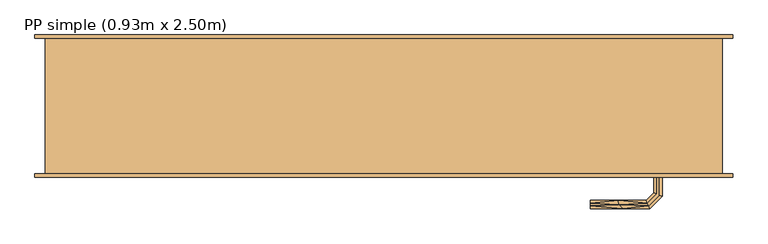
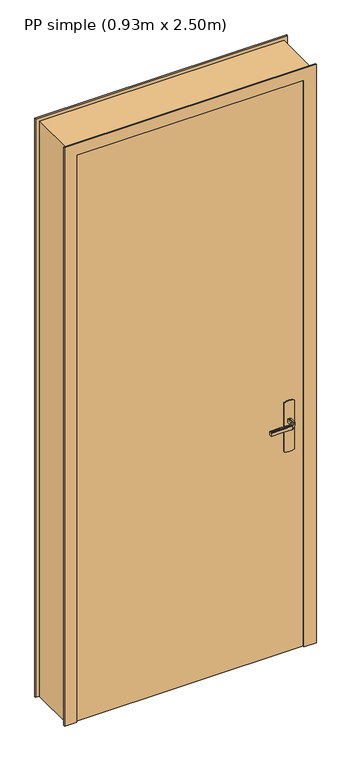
"""IFC4 building model written with IfcOpenShell, lengths in millimetres: door geometry, PP simple (0.93m x 2.50m)."""

import ifcopenshell
import ifcopenshell.guid

model = None  # the IFC model being written
_history = None  # IfcOwnerHistory: only IFC2X3 demands one
_inside = {}  # id of a spatial element -> (the spatial element, [elements in it])
_under = {}  # id of a project, library or spatial element -> (it, [spatial elements below it])
_declared = {}  # id of a project -> (the project, [libraries it declares])
_typed = {}  # id of a type object -> (the type object, [elements of that type])
_made_of = {}  # id of a material, layer set ... -> (it, [elements and type objects made of it])


def new_model(schema):
    """Start an empty IFC model of exactly this schema.

    Asked for "IFC4X3", IfcOpenShell would pick the latest addendum, in which some entities
    have other attributes; the version numbers below select the first issue.
    IFC2X3 requires an IfcOwnerHistory on every rooted entity: one is made here for all.
    """
    global model, _history
    if schema == "IFC4X3":
        model = ifcopenshell.file(schema_version=(4, 3, 0, 0))
    else:
        model = ifcopenshell.file(schema=schema)
    _inside.clear()
    _under.clear()
    _declared.clear()
    _typed.clear()
    _made_of.clear()
    _history = None
    if model.schema == "IFC2X3":
        org = make("IfcOrganization", Name="unknown")
        user = make(
            "IfcPersonAndOrganization",
            ThePerson=make("IfcPerson", FamilyName="unknown"),
            TheOrganization=org,
        )
        app = make(
            "IfcApplication",
            ApplicationDeveloper=org,
            Version="unknown",
            ApplicationFullName="unknown",
            ApplicationIdentifier="unknown",
        )
        _history = make(
            "IfcOwnerHistory",
            OwningUser=user,
            OwningApplication=app,
            ChangeAction="ADDED",
            CreationDate=0,
        )
    return model


def make(cls, **values):
    """One entity of the class cls with the attributes given. An attribute that is None is left unset."""
    return model.create_entity(
        cls, **{name: value for name, value in values.items() if value is not None}
    )


def rooted(cls, **values):
    """An entity with a GlobalId (a new one), such as an element, a storey or a relation."""
    return make(cls, GlobalId=ifcopenshell.guid.new(), OwnerHistory=_history, **values)


def si_unit(unit_type, name, prefix=None):
    """IfcSIUnit, for example si_unit("LENGTHUNIT", "METRE", prefix="MILLI")."""
    return make("IfcSIUnit", UnitType=unit_type, Prefix=prefix, Name=name)


def assignment(units):
    """IfcUnitAssignment: the units of a project."""
    return None if units is None else make("IfcUnitAssignment", Units=units)


def point(xyz):
    """IfcCartesianPoint."""
    return None if xyz is None else make("IfcCartesianPoint", Coordinates=xyz)


def direction(xyz):
    """IfcDirection."""
    return None if xyz is None else make("IfcDirection", DirectionRatios=xyz)


def frame(location, z_axis=None, x_axis=None):
    """IfcAxis2Placement3D, a coordinate frame: its origin and axes. An axis left out is left unset."""
    return make(
        "IfcAxis2Placement3D",
        Location=point(location),
        Axis=direction(z_axis),
        RefDirection=direction(x_axis),
    )


def origin():
    """The frame at (0, 0, 0) with its axes left unset."""
    return frame((0.0, 0.0, 0.0))


def origin_with_axes():
    """The frame at (0, 0, 0) with the z axis (0, 0, 1) and the x axis (1, 0, 0) written out."""
    return frame((0.0, 0.0, 0.0), z_axis=(0.0, 0.0, 1.0), x_axis=(1.0, 0.0, 0.0))


def place(relative_to, where):
    """IfcLocalPlacement: puts the frame where relative to a parent placement (None: the world)."""
    return make(
        "IfcLocalPlacement", PlacementRelTo=relative_to, RelativePlacement=where
    )


def context(
    kind, dimensions, precision=None, world=None, true_north=None, identifier=None
):
    """IfcGeometricRepresentationContext, for example the 3D "Model" context."""
    return make(
        "IfcGeometricRepresentationContext",
        ContextIdentifier=identifier,
        ContextType=kind,
        CoordinateSpaceDimension=dimensions,
        Precision=precision,
        WorldCoordinateSystem=world,
        TrueNorth=true_north,
    )


def project(units=None, contexts=None):
    """IfcProject with its units and contexts."""
    return rooted(
        "IfcProject",
        Name="project",
        RepresentationContexts=contexts,
        UnitsInContext=assignment(units),
    )


def spatial(cls, under=None, at=None, **own):
    """A site, building, storey or space (cls), placed at a placement, below another one or the project."""
    s = rooted(cls, ObjectPlacement=at, **own)
    if under is not None:
        _under.setdefault(under.id(), (under, []))[1].append(s)
    return s


def polyline(points):
    """IfcPolyline through the points."""
    return make("IfcPolyline", Points=[point(p) for p in points])


def outline(outer, holes=None, kind="AREA"):
    """IfcArbitraryClosedProfileDef: a profile drawn as a closed curve; with holes, ...WithVoids."""
    if holes is None:
        return make("IfcArbitraryClosedProfileDef", ProfileType=kind, OuterCurve=outer)
    return make(
        "IfcArbitraryProfileDefWithVoids",
        ProfileType=kind,
        OuterCurve=outer,
        InnerCurves=holes,
    )


def extrude(swept, where, along, depth):
    """IfcExtrudedAreaSolid: the profile swept, set in the frame where, extruded along a direction by depth."""
    return make(
        "IfcExtrudedAreaSolid",
        SweptArea=swept,
        Position=where,
        ExtrudedDirection=direction(along),
        Depth=depth,
    )


def faces_of(points, faces, orient=None, outer=None):
    """IfcFace entities. A face is a list of loops; a loop is a list of indices into points, from 0.

    orient and outer hold one flag for each loop. By default every Orientation is true, the
    first loop of a face is its IfcFaceOuterBound and the others are IfcFaceBound.
    """
    made = []
    for i, loops in enumerate(faces):
        bounds = []
        for j, loop in enumerate(loops):
            is_outer = j == 0 if outer is None else outer[i][j]
            bounds.append(
                make(
                    "IfcFaceOuterBound" if is_outer else "IfcFaceBound",
                    Bound=make("IfcPolyLoop", Polygon=[points[k] for k in loop]),
                    Orientation=True if orient is None else orient[i][j],
                )
            )
        made.append(make("IfcFace", Bounds=bounds))
    return made


def faceted_brep(points, faces, orient=None, outer=None, voids=None):
    """IfcFacetedBrep: a solid bounded by flat faces; with voids (closed shells), ...WithVoids."""
    shared = [point(p) for p in points]
    hull = make("IfcClosedShell", CfsFaces=faces_of(shared, faces, orient, outer))
    if voids is None:
        return make("IfcFacetedBrep", Outer=hull)
    return make(
        "IfcFacetedBrepWithVoids",
        Outer=hull,
        Voids=[
            make(cls, CfsFaces=faces_of(shared, fs, o, b)) for cls, fs, o, b in voids
        ],
    )


def shape(context_of_items, identifier, shape_type, items):
    """IfcShapeRepresentation: the items that make up one representation, for example the "Body"."""
    return make(
        "IfcShapeRepresentation",
        ContextOfItems=context_of_items,
        RepresentationIdentifier=identifier,
        RepresentationType=shape_type,
        Items=items,
    )


def source(mapping_origin, context_of_items, identifier, shape_type, items):
    """IfcRepresentationMap: a shape defined once, which mapped items show again and again."""
    return make(
        "IfcRepresentationMap",
        MappingOrigin=mapping_origin,
        MappedRepresentation=shape(context_of_items, identifier, shape_type, items),
    )


def transform(
    local_origin,
    x_axis=None,
    y_axis=None,
    z_axis=None,
    scale=None,
    scale2=None,
    scale3=None,
    uniform=True,
):
    """IfcCartesianTransformationOperator3D, or its non-uniform kind. x_axis, y_axis, z_axis: its Axis1, 2, 3."""
    if uniform:
        return make(
            "IfcCartesianTransformationOperator3D",
            Axis1=direction(x_axis),
            Axis2=direction(y_axis),
            LocalOrigin=point(local_origin),
            Scale=scale,
            Axis3=direction(z_axis),
        )
    return make(
        "IfcCartesianTransformationOperator3DnonUniform",
        Axis1=direction(x_axis),
        Axis2=direction(y_axis),
        LocalOrigin=point(local_origin),
        Scale=scale,
        Axis3=direction(z_axis),
        Scale2=scale2,
        Scale3=scale3,
    )


def mapped(mapping_source, mapping_target):
    """IfcMappedItem: shows the shape of a source again, moved by a transform."""
    return make(
        "IfcMappedItem", MappingSource=mapping_source, MappingTarget=mapping_target
    )


def made_of(thing, what):
    """Note that an element or type object is made of a material, layer set ...; save() writes the relation."""
    if what is not None:
        _made_of.setdefault(what.id(), (what, []))[1].append(thing)
    return thing


def element(
    cls,
    number,
    at=None,
    inside=None,
    cuts=None,
    type_object=None,
    material=None,
    context=None,
    identifier="Body",
    shape_type=None,
    held_by="IfcProductDefinitionShape",
    body=None,
    shapes=None,
    **own,
):
    """One element of the class cls, such as IfcWall. Its Tag is "e" and its number.

    at: its placement. inside: the storey or other place that contains it. cuts: it is an
    opening in that element (IfcRelVoidsElement). A single representation is given by context,
    identifier, shape_type and body (its items); several are given by shapes. held_by: the class
    of the entity that holds the representations. save() writes the other relations.
    """
    e = rooted(cls, Tag="e%d" % number, ObjectPlacement=at, **own)
    if body is not None:
        shapes = [shape(context, identifier, shape_type, body)]
    if shapes is not None:
        e.Representation = make(held_by, Representations=shapes)
    if inside is not None:
        _inside.setdefault(inside.id(), (inside, []))[1].append(e)
    if cuts is not None:
        rooted(
            "IfcRelVoidsElement", RelatingBuildingElement=cuts, RelatedOpeningElement=e
        )
    if type_object is not None:
        _typed.setdefault(type_object.id(), (type_object, []))[1].append(e)
    return made_of(e, material)


def aggregate(whole, parts):
    """IfcRelAggregates: a whole, such as a stair, and the parts it consists of."""
    return rooted("IfcRelAggregates", RelatingObject=whole, RelatedObjects=parts)


def save(model, path):
    """Write the relations noted so far, then the file.

    IfcRelAggregates (storeys below a building ...), IfcRelContainedInSpatialStructure (elements
    in a storey), IfcRelDefinesByType, IfcRelAssociatesMaterial and IfcRelDeclares: one each for
    every whole, place, type object, material and project.
    """
    for whole, parts in _under.values():
        aggregate(whole, parts)
    for where, things in _inside.values():
        rooted(
            "IfcRelContainedInSpatialStructure",
            RelatedElements=things,
            RelatingStructure=where,
        )
    for kind, things in _typed.values():
        rooted("IfcRelDefinesByType", RelatedObjects=things, RelatingType=kind)
    for what, things in _made_of.values():
        rooted("IfcRelAssociatesMaterial", RelatedObjects=things, RelatingMaterial=what)
    for by, libraries in _declared.values():
        rooted("IfcRelDeclares", RelatingContext=by, RelatedDefinitions=libraries)
    model.write(path)


def pp_simple_0_93m_x_2_50m_868be219(model_context):
    return source(origin(), model_context, "Body", "SolidModel", [
        extrude(outline(polyline([(870.0, 995.0), (1080.0, 995.0), (1083.9960169, 985.3527618), (1085.3589838, 975.0), (1083.9960169, 964.6472382), (1080.0, 955.0), (870.0, 955.0), (866.0039831, 964.6472382), (864.6410162, 975.0), (866.0039831, 985.3527618), (870.0, 995.0)])), frame((0.0, 40.0, 0.0), z_axis=(0.0, 1.0, 0.0), x_axis=(0.0, 0.0, 1.0)), (0.0, 0.0, 1.0), 5.0),
        faceted_brep([(1070.0, 200.0, 0.0), (1070.0, 0.0, 0.0), (1085.0, 0.0, 0.0), (1085.0, -5.0, 0.0), (1035.0, -5.0, 0.0), (1035.0, 40.0, 0.0), (1020.0, 40.0, 0.0), (1020.0, 205.0, 0.0), (1085.0, 205.0, 0.0), (1085.0, 200.0, 0.0), (1070.0, 200.0, 2485.0), (1070.0, 0.0, 2485.0), (1085.0, 200.0, 2500.0), (55.0, 200.0, 2500.0), (55.0, 200.0, 0.0), (70.0, 200.0, 0.0), (70.0, 200.0, 2485.0), (1020.0, 40.0, 2435.0), (1020.0, 205.0, 2435.0), (1035.0, 40.0, 2450.0), (105.0, 40.0, 2450.0), (105.0, 40.0, 0.0), (120.0, 40.0, 0.0), (120.0, 40.0, 2435.0), (70.0, 0.0, 0.0), (70.0, 0.0, 2485.0), (55.0, 205.0, 0.0), (120.0, 205.0, 0.0), (105.0, -5.0, 0.0), (55.0, -5.0, 0.0), (55.0, 0.0, 0.0), (120.0, 205.0, 2435.0), (1035.0, -5.0, 2450.0), (1085.0, -5.0, 2500.0), (55.0, -5.0, 2500.0), (105.0, -5.0, 2450.0), (1085.0, 0.0, 2500.0), (55.0, 0.0, 2500.0), (1085.0, 205.0, 2500.0), (55.0, 205.0, 2500.0)], [[[0, 1, 2, 3, 4, 5, 6, 7, 8, 9]], [[0, 10, 11, 1]], [[9, 12, 13, 14, 15, 16, 10, 0]], [[7, 6, 17, 18]], [[5, 19, 20, 21, 22, 23, 17, 6]], [[16, 15, 24, 25]], [[15, 14, 26, 27, 22, 21, 28, 29, 30, 24]], [[23, 22, 27, 31]], [[10, 16, 25, 11]], [[17, 23, 31, 18]], [[5, 4, 32, 19]], [[3, 33, 34, 29, 28, 35, 32, 4]], [[2, 36, 33, 3]], [[1, 11, 25, 24, 30, 37, 36, 2]], [[8, 38, 12, 9]], [[7, 18, 31, 27, 26, 39, 38, 8]], [[35, 28, 21, 20]], [[37, 30, 29, 34]], [[39, 26, 14, 13]], [[32, 35, 20, 19]], [[36, 37, 34, 33]], [[38, 39, 13, 12]]]),
        faceted_brep([(972.9747013, -5.0, 1007.7804408), (977.0252987, -5.0, 1007.7804408), (981.0, -5.0, 1007.0), (981.0, -5.0, 993.0), (977.0252987, -5.0, 992.2195592), (972.9747013, -5.0, 992.2195592), (969.0, -5.0, 993.0), (969.0, -5.0, 1007.0), (977.0252987, -31.0045755, 1007.7804408), (981.0, -32.6509507, 1007.0), (972.9747013, -29.3267632, 1007.7804408), (959.2986025, -43.002862, 1007.7804408), (960.9764148, -47.0534593, 1007.7804408), (969.0, -27.680388, 1007.0), (969.0, -27.680388, 993.0), (972.9747013, -29.3267632, 992.2195592), (977.0252987, -31.0045755, 992.2195592), (960.9764148, -47.0534593, 992.2195592), (959.2986025, -43.002862, 992.2195592), (981.0, -32.6509507, 993.0), (962.62279, -51.0281607, 1007.0), (957.6522273, -39.0281607, 1007.0), (957.6522273, -39.0281607, 993.0), (962.62279, -51.0281607, 993.0), (874.9813594, -51.0281607, 1007.0), (874.9813594, -47.0534593, 1007.7804408), (874.9813594, -43.002862, 1007.7804408), (874.9813594, -39.0281607, 1007.0), (874.9813594, -39.0281607, 993.0), (874.9813594, -43.002862, 992.2195592), (874.9813594, -47.0534593, 992.2195592), (874.9813594, -51.0281607, 993.0), (917.1399809, -45.0281607, 1007.8786868), (922.6923028, -51.0281607, 1007.0), (916.3167933, -39.0281607, 1007.0), (916.3167933, -39.0281607, 993.0), (917.1399811, -45.0281608, 992.1213132), (922.6923104, -51.0281607, 993.0)], [[[0, 1, 2, 3, 4, 5, 6, 7]], [[2, 1, 8, 9]], [[1, 0, 10, 11, 12, 8]], [[0, 7, 13, 10]], [[14, 13, 7, 6]], [[5, 15, 14, 6]], [[5, 4, 16, 17, 18, 15]], [[3, 19, 16, 4]], [[9, 19, 3, 2]], [[9, 8, 12, 20]], [[10, 13, 21, 11]], [[22, 21, 13, 14]], [[14, 15, 18, 22]], [[16, 19, 23, 17]], [[20, 23, 19, 9]], [[24, 25, 26, 27, 28, 29, 30, 31]], [[32, 25, 33]], [[33, 25, 24]], [[33, 20, 12]], [[11, 34, 32]], [[34, 11, 21]], [[27, 26, 34]], [[32, 26, 25]], [[32, 34, 26]], [[32, 33, 12]], [[11, 32, 12]], [[21, 22, 35, 28, 27, 34]], [[36, 29, 35]], [[30, 36, 37]], [[18, 35, 22]], [[29, 28, 35]], [[30, 37, 31]], [[37, 17, 23]], [[36, 17, 37]], [[36, 18, 17]], [[36, 35, 18]], [[29, 36, 30]], [[23, 20, 33, 24, 31, 37]]]),
        faceted_brep([(972.9747013, 45.0, 992.2195592), (977.0252987, 45.0, 992.2195592), (981.0, 45.0, 993.0), (981.0, 45.0, 1007.0), (977.0252987, 45.0, 1007.7804408), (972.9747013, 45.0, 1007.7804408), (969.0, 45.0, 1007.0), (969.0, 45.0, 993.0), (969.0, 67.4852045, 1007.0), (969.0, 67.4852045, 993.0), (972.9747013, 69.1315797, 1007.7804408), (977.0252987, 70.8093921, 1007.7804408), (960.8389062, 86.9957845, 1007.7804408), (959.1610938, 82.9451872, 1007.7804408), (981.0, 72.4557673, 1007.0), (981.0, 72.4557673, 993.0), (977.0252987, 70.8093921, 992.2195592), (972.9747013, 69.1315797, 992.2195592), (959.1610938, 82.9451872, 992.2195592), (960.8389062, 86.9957845, 992.2195592), (957.5147186, 78.9704859, 1007.0), (957.5147186, 78.9704859, 993.0), (962.4852814, 90.9704859, 1007.0), (962.4852814, 90.9704859, 993.0), (874.9542163, 82.9451872, 1007.7804408), (874.9542163, 86.9957845, 1007.7804408), (874.9542163, 90.9704859, 1007.0), (874.9542163, 90.9704859, 993.0), (874.9542163, 86.9957845, 992.2195592), (874.9542163, 82.9451872, 992.2195592), (874.9542163, 78.9704859, 993.0), (874.9542163, 78.9704859, 1007.0), (916.2344675, 78.9704859, 1007.0), (916.2344794, 78.9704859, 993.0), (917.0576551, 84.9704859, 1007.8786868), (922.5547942, 90.9704859, 1007.0), (922.5547957, 90.9704859, 993.0), (917.0576549, 84.9704858, 992.1213132)], [[[0, 1, 2, 3, 4, 5, 6, 7]], [[8, 9, 7, 6]], [[5, 10, 8, 6]], [[5, 4, 11, 12, 13, 10]], [[3, 14, 11, 4]], [[14, 3, 2, 15]], [[2, 1, 16, 15]], [[1, 0, 17, 18, 19, 16]], [[0, 7, 9, 17]], [[20, 21, 9, 8]], [[8, 10, 13, 20]], [[14, 22, 12, 11]], [[23, 22, 14, 15]], [[15, 16, 19, 23]], [[17, 9, 21, 18]], [[24, 25, 26, 27, 28, 29, 30, 31]], [[21, 20, 32, 31, 30, 33]], [[34, 24, 32]], [[25, 34, 35]], [[13, 32, 20]], [[24, 31, 32]], [[25, 35, 26]], [[35, 12, 22]], [[34, 12, 35]], [[34, 13, 12]], [[34, 32, 13]], [[24, 34, 25]], [[22, 23, 36, 27, 26, 35]], [[37, 28, 36]], [[36, 28, 27]], [[36, 23, 19]], [[18, 33, 37]], [[33, 18, 21]], [[30, 29, 33]], [[37, 29, 28]], [[37, 33, 29]], [[37, 36, 19]], [[18, 37, 19]]]),
        extrude(outline(polyline([(1035.0, 40.0), (1035.0, 0.0), (105.0, 0.0), (105.0, 40.0), (1035.0, 40.0)])), origin_with_axes(), (0.0, 0.0, 1.0), 2450.0),
        extrude(outline(polyline([(870.0, 995.0), (1080.0, 995.0), (1083.9960169, 985.3527618), (1085.3589838, 975.0), (1083.9960169, 964.6472382), (1080.0, 955.0), (870.0, 955.0), (866.0039831, 964.6472382), (864.6410162, 975.0), (866.0039831, 985.3527618), (870.0, 995.0)])), frame((0.0, -5.0, 0.0), z_axis=(0.0, 1.0, 0.0), x_axis=(0.0, 0.0, 1.0)), (0.0, 0.0, 1.0), 5.0),
    ])


if __name__ == "__main__":
    model = new_model("IFC4")
    model_context = context("Model", 3, world=origin())
    ifc_project = project(units=[si_unit("LENGTHUNIT", "METRE", prefix="MILLI")], contexts=[model_context])
    site = spatial("IfcSite", under=ifc_project)
    building = spatial("IfcBuilding", under=site)
    placement = place(None, origin())
    pp_simple_0_93m_x_2_50m_shape = pp_simple_0_93m_x_2_50m_868be219(model_context)
    element("IfcDoor", 1, ObjectType="PP simple (0.93m x 2.50m)", at=placement, inside=building, context=model_context, shape_type="MappedRepresentation", body=[
        mapped(pp_simple_0_93m_x_2_50m_shape, transform((0.0, 0.0, 0.0), x_axis=(1.0, 0.0, 0.0), y_axis=(0.0, 1.0, 0.0), z_axis=(0.0, 0.0, 1.0))),
    ])
    save(model, "model.ifc")
